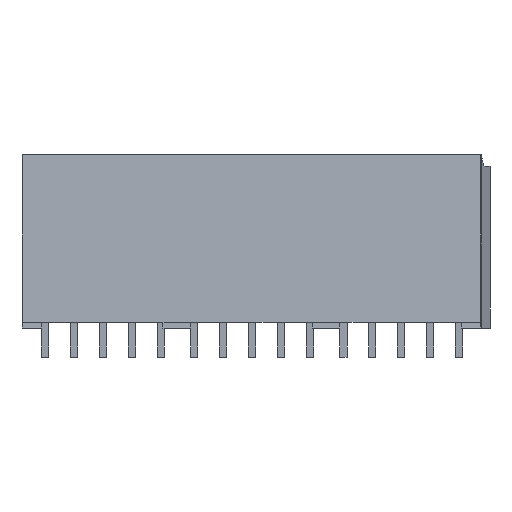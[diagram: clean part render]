
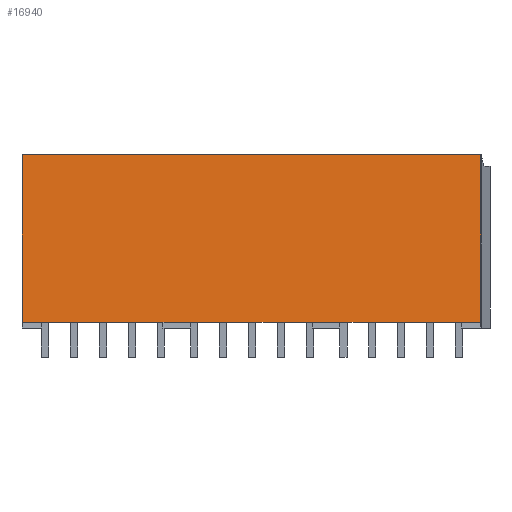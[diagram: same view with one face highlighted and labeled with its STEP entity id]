
A CAD part, front view. The second image highlights one B-rep face of the part: STEP entity #16940.
In plain terms, the highlighted planar face has unit normal (0, -0.997, 0.076).
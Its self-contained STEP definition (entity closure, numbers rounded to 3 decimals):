
#28=DIRECTION('',(1.,0.,0.));
#29=VECTOR('',#28,39.7);
#30=CARTESIAN_POINT('',(-19.85,-3.415,0.));
#31=LINE('',#30,#29);
#4812=DIRECTION('',(0.,0.076,0.997));
#4813=VECTOR('',#4812,14.542);
#4814=CARTESIAN_POINT('',(19.85,-4.515,-14.5));
#4815=LINE('',#4814,#4813);
#5102=DIRECTION('',(1.,0.,0.));
#5103=VECTOR('',#5102,1.705);
#5104=CARTESIAN_POINT('',(-19.85,-4.515,-14.5));
#5105=LINE('',#5104,#5103);
#5110=DIRECTION('',(1.,0.,0.));
#5111=VECTOR('',#5110,2.41);
#5112=CARTESIAN_POINT('',(-7.655,-4.515,-14.5));
#5113=LINE('',#5112,#5111);
#5118=DIRECTION('',(1.,0.,0.));
#5119=VECTOR('',#5118,1.705);
#5120=CARTESIAN_POINT('',(18.145,-4.515,-14.5));
#5121=LINE('',#5120,#5119);
#5126=DIRECTION('',(1.,0.,0.));
#5127=VECTOR('',#5126,2.41);
#5128=CARTESIAN_POINT('',(5.245,-4.515,-14.5));
#5129=LINE('',#5128,#5127);
#5142=DIRECTION('',(0.,0.076,0.997));
#5143=VECTOR('',#5142,14.542);
#5144=CARTESIAN_POINT('',(-19.85,-4.515,-14.5));
#5145=LINE('',#5144,#5143);
#5150=DIRECTION('',(1.,0.,0.));
#5151=VECTOR('',#5150,10.49);
#5152=CARTESIAN_POINT('',(-18.145,-4.515,-14.5));
#5153=LINE('',#5152,#5151);
#5198=DIRECTION('',(1.,0.,0.));
#5199=VECTOR('',#5198,10.49);
#5200=CARTESIAN_POINT('',(-5.245,-4.515,-14.5));
#5201=LINE('',#5200,#5199);
#5270=DIRECTION('',(1.,0.,0.));
#5271=VECTOR('',#5270,10.49);
#5272=CARTESIAN_POINT('',(7.655,-4.515,-14.5));
#5273=LINE('',#5272,#5271);
#8894=CARTESIAN_POINT('',(19.85,-3.415,0.));
#8895=VERTEX_POINT('',#8894);
#8936=CARTESIAN_POINT('',(-19.85,-3.415,0.));
#8937=VERTEX_POINT('',#8936);
#8986=CARTESIAN_POINT('',(-18.145,-4.515,-14.5));
#8987=VERTEX_POINT('',#8986);
#8988=CARTESIAN_POINT('',(-7.655,-4.515,-14.5));
#8989=VERTEX_POINT('',#8988);
#8990=CARTESIAN_POINT('',(-5.245,-4.515,-14.5));
#8991=VERTEX_POINT('',#8990);
#8992=CARTESIAN_POINT('',(18.145,-4.515,-14.5));
#8993=VERTEX_POINT('',#8992);
#8994=CARTESIAN_POINT('',(5.245,-4.515,-14.5));
#8995=VERTEX_POINT('',#8994);
#8996=CARTESIAN_POINT('',(7.655,-4.515,-14.5));
#8997=VERTEX_POINT('',#8996);
#8998=CARTESIAN_POINT('',(-19.85,-4.515,-14.5));
#8999=VERTEX_POINT('',#8998);
#9000=CARTESIAN_POINT('',(19.85,-4.515,-14.5));
#9001=VERTEX_POINT('',#9000);
#16923=CARTESIAN_POINT('',(-19.85,-4.515,-14.5));
#16924=DIRECTION('',(0.,0.997,-0.076));
#16925=DIRECTION('',(0.,0.076,0.997));
#16926=AXIS2_PLACEMENT_3D('',#16923,#16924,#16925);
#16927=PLANE('',#16926);
#16928=ORIENTED_EDGE('',*,*,#16123,.F.);
#16929=ORIENTED_EDGE('',*,*,#16464,.F.);
#16930=ORIENTED_EDGE('',*,*,#16810,.F.);
#16931=ORIENTED_EDGE('',*,*,#16478,.F.);
#16932=ORIENTED_EDGE('',*,*,#16668,.F.);
#16933=ORIENTED_EDGE('',*,*,#16449,.F.);
#16934=ORIENTED_EDGE('',*,*,#16542,.F.);
#16935=ORIENTED_EDGE('',*,*,#16437,.F.);
#16936=ORIENTED_EDGE('',*,*,#16508,.T.);
#16937=ORIENTED_EDGE('',*,*,#9067,.T.);
#16938=EDGE_LOOP('',(#16928,#16929,#16930,#16931,#16932,#16933,#16934,#16935,
#16936,#16937));
#16939=FACE_OUTER_BOUND('',#16938,.F.);
#9067=EDGE_CURVE('',#8937,#8895,#31,.T.);
#16123=EDGE_CURVE('',#9001,#8895,#4815,.T.);
#16437=EDGE_CURVE('',#8999,#8987,#5105,.T.);
#16449=EDGE_CURVE('',#8989,#8991,#5113,.T.);
#16464=EDGE_CURVE('',#8993,#9001,#5121,.T.);
#16478=EDGE_CURVE('',#8995,#8997,#5129,.T.);
#16508=EDGE_CURVE('',#8999,#8937,#5145,.T.);
#16542=EDGE_CURVE('',#8987,#8989,#5153,.T.);
#16668=EDGE_CURVE('',#8991,#8995,#5201,.T.);
#16810=EDGE_CURVE('',#8997,#8993,#5273,.T.);
#16940=ADVANCED_FACE('',(#16939),#16927,.F.);
